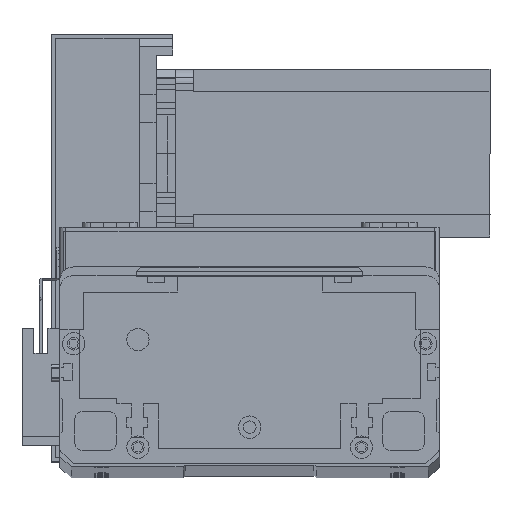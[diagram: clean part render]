
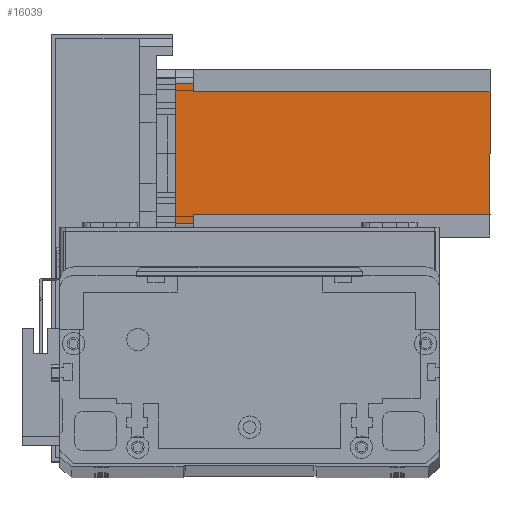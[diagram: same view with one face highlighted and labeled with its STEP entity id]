
A CAD part, top view. The second image highlights one B-rep face of the part: STEP entity #16039.
In plain terms, the highlighted planar face has unit normal (0, 0, 1) as drawn and (0, -1, 0) by its records, which use the part's own axes.
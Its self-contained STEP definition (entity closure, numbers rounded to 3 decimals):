
#160 = ORIENTED_EDGE ( 'NONE', *, *, #27418, .T. ) ;
#259 = VERTEX_POINT ( 'NONE', #18891 ) ;
#357 = DIRECTION ( 'NONE',  ( 0., 0., -1. ) ) ;
#760 = CARTESIAN_POINT ( 'NONE',  ( 55., 0., -6.5 ) ) ;
#793 = CARTESIAN_POINT ( 'NONE',  ( 52., 0., -112.5 ) ) ;
#1496 = DIRECTION ( 'NONE',  ( 1., 0., 0. ) ) ;
#1571 = CARTESIAN_POINT ( 'NONE',  ( 52., 0., -112.5 ) ) ;
#2095 = CARTESIAN_POINT ( 'NONE',  ( 0., 0., 0. ) ) ;
#3644 = LINE ( 'NONE', #5208, #14695 ) ;
#4552 = VECTOR ( 'NONE', #357, 1000. ) ;
#5158 = CARTESIAN_POINT ( 'NONE',  ( 8., 0., -6.5 ) ) ;
#5208 = CARTESIAN_POINT ( 'NONE',  ( 8., 0., -112.5 ) ) ;
#5226 = DIRECTION ( 'NONE',  ( -1., 0., 0. ) ) ;
#5304 = LINE ( 'NONE', #793, #4552 ) ;
#5469 = CARTESIAN_POINT ( 'NONE',  ( 5., 0., 0. ) ) ;
#6531 = DIRECTION ( 'NONE',  ( 0., 0., -1. ) ) ;
#6644 = CARTESIAN_POINT ( 'NONE',  ( 5., 0., -112.5 ) ) ;
#7762 = VECTOR ( 'NONE', #6531, 1000. ) ;
#7986 = ORIENTED_EDGE ( 'NONE', *, *, #24907, .T. ) ;
#8195 = CARTESIAN_POINT ( 'NONE',  ( 8., 0., -112.5 ) ) ;
#9177 = EDGE_CURVE ( 'NONE', #18924, #28077, #28141, .T. ) ;
#9458 = FACE_OUTER_BOUND ( 'NONE', #19499, .T. ) ;
#9714 = ORIENTED_EDGE ( 'NONE', *, *, #22808, .T. ) ;
#11341 = VECTOR ( 'NONE', #13711, 1000. ) ;
#11541 = VECTOR ( 'NONE', #19425, 1000. ) ;
#12333 = DIRECTION ( 'NONE',  ( 0., 0., 1. ) ) ;
#13279 = ORIENTED_EDGE ( 'NONE', *, *, #17800, .T. ) ;
#13336 = VERTEX_POINT ( 'NONE', #1571 ) ;
#13711 = DIRECTION ( 'NONE',  ( 0., 0., 1. ) ) ;
#14456 = VERTEX_POINT ( 'NONE', #22751 ) ;
#14695 = VECTOR ( 'NONE', #12333, 1000. ) ;
#15017 = CARTESIAN_POINT ( 'NONE',  ( 55., 0., 0. ) ) ;
#15361 = ORIENTED_EDGE ( 'NONE', *, *, #16943, .F. ) ;
#16039 = ADVANCED_FACE ( 'NONE', ( #9458 ), #16213, .T. ) ;
#16046 = DIRECTION ( 'NONE',  ( 0., 0., -1. ) ) ;
#16106 = DIRECTION ( 'NONE',  ( 0., -1., 0. ) ) ;
#16150 = CARTESIAN_POINT ( 'NONE',  ( 0., 0., -112.5 ) ) ;
#16213 = PLANE ( 'NONE',  #27679 ) ;
#16659 = EDGE_CURVE ( 'NONE', #14456, #259, #18208, .T. ) ;
#16943 = EDGE_CURVE ( 'NONE', #22175, #13336, #5304, .T. ) ;
#17561 = LINE ( 'NONE', #18365, #11341 ) ;
#17764 = LINE ( 'NONE', #19041, #11541 ) ;
#17800 = EDGE_CURVE ( 'NONE', #22175, #21970, #17764, .T. ) ;
#17887 = DIRECTION ( 'NONE',  ( 1., 0., 0. ) ) ;
#18208 = LINE ( 'NONE', #5158, #24530 ) ;
#18365 = CARTESIAN_POINT ( 'NONE',  ( 55., 0., -112.5 ) ) ;
#18891 = CARTESIAN_POINT ( 'NONE',  ( 5., 0., -6.5 ) ) ;
#18924 = VERTEX_POINT ( 'NONE', #5469 ) ;
#19041 = CARTESIAN_POINT ( 'NONE',  ( 52., 0., -6.5 ) ) ;
#19425 = DIRECTION ( 'NONE',  ( 1., 0., 0. ) ) ;
#19499 = EDGE_LOOP ( 'NONE', ( #13279, #9714, #29203, #160, #29812, #28593, #7986, #15361 ) ) ;
#19848 = EDGE_CURVE ( 'NONE', #20671, #14456, #3644, .T. ) ;
#20313 = CARTESIAN_POINT ( 'NONE',  ( 0., 0., -112.5 ) ) ;
#20388 = CARTESIAN_POINT ( 'NONE',  ( 52., 0., -6.5 ) ) ;
#20671 = VERTEX_POINT ( 'NONE', #8195 ) ;
#21136 = VECTOR ( 'NONE', #17887, 1000. ) ;
#21970 = VERTEX_POINT ( 'NONE', #760 ) ;
#21996 = VECTOR ( 'NONE', #1496, 1000. ) ;
#22175 = VERTEX_POINT ( 'NONE', #20388 ) ;
#22751 = CARTESIAN_POINT ( 'NONE',  ( 8., 0., -6.5 ) ) ;
#22808 = EDGE_CURVE ( 'NONE', #21970, #28077, #17561, .T. ) ;
#24530 = VECTOR ( 'NONE', #5226, 1000. ) ;
#24907 = EDGE_CURVE ( 'NONE', #20671, #13336, #26607, .T. ) ;
#25820 = LINE ( 'NONE', #6644, #7762 ) ;
#26607 = LINE ( 'NONE', #20313, #21136 ) ;
#27418 = EDGE_CURVE ( 'NONE', #18924, #259, #25820, .T. ) ;
#27679 = AXIS2_PLACEMENT_3D ( 'NONE', #16150, #16106, #16046 ) ;
#28077 = VERTEX_POINT ( 'NONE', #15017 ) ;
#28141 = LINE ( 'NONE', #2095, #21996 ) ;
#28593 = ORIENTED_EDGE ( 'NONE', *, *, #19848, .F. ) ;
#29203 = ORIENTED_EDGE ( 'NONE', *, *, #9177, .F. ) ;
#29812 = ORIENTED_EDGE ( 'NONE', *, *, #16659, .F. ) ;
